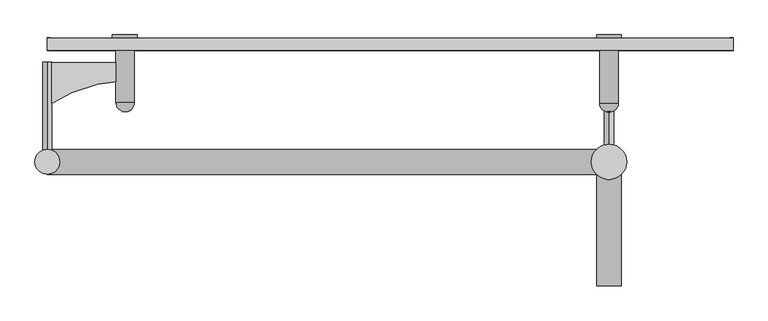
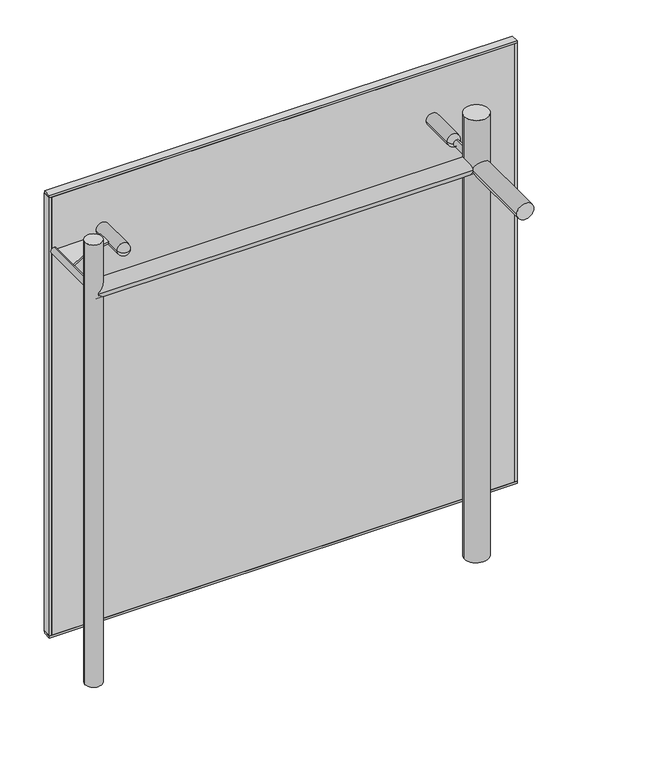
"""IFC4 building model written with IfcOpenShell, lengths in millimetres: plate geometry, FLATNING_TRYOUT_CORNER : FLATNING_TRYOUT_CORNER."""

from ifc_helpers import new_model, si_unit, point, frame, frame_2d, origin, origin_with_axes, place, context, project, spatial, polyline, circle_curve, ellipse_curve, trimmed, segment, composite_curve, outline, extrude, source, transform, mapped, element, save
from ifc_brep_helpers import plane_surface, cylinder_surface, revolved_surface, advanced_brep


def plate_a1d4ab2c(model_context):
    return source(origin(), model_context, "Body", "SolidModel", [
        advanced_brep(
        [(352.5, 0.0, 980.0), (347.5, 0.0, 980.0), (357.5, 0.0, 980.0), (367.5, -20.0, 980.0), (337.5, -20.0, 980.0), (337.5, -105.0, 980.0), (367.5, -105.0, 980.0), (357.5, -20.0, 980.0), (347.5, -20.0, 980.0), (352.5, -120.0, 980.0)],
        [
            (0, 1),
            (1, 2, circle_curve(frame((352.5, 0.0, 980.0), z_axis=(0.0, 1.0, 0.0), x_axis=(-1.0, 0.0, 0.0)), 5.0)),
            (2, 0),
            (2, 1, circle_curve(frame((352.5, 0.0, 980.0), z_axis=(0.0, 1.0, 0.0), x_axis=(-1.0, 0.0, 0.0)), 5.0)),
            (3, 4, circle_curve(frame((352.5, -20.0, 980.0), z_axis=(0.0, -1.0, 0.0), x_axis=(-1.0, 0.0, 0.0)), 15.0)),
            (4, 5),
            (5, 6, circle_curve(frame((352.5, -105.0, 980.0), z_axis=(0.0, 1.0, 0.0), x_axis=(-1.0, 0.0, 0.0)), 15.0)),
            (6, 3),
            (4, 3, circle_curve(frame((352.5, -20.0, 980.0), z_axis=(0.0, -1.0, 0.0), x_axis=(-1.0, 0.0, 0.0)), 15.0)),
            (6, 5, circle_curve(frame((352.5, -105.0, 980.0), z_axis=(0.0, 1.0, 0.0), x_axis=(-1.0, 0.0, 0.0)), 15.0)),
            (7, 8, circle_curve(frame((352.5, -20.0, 980.0), z_axis=(0.0, -1.0, 0.0), x_axis=(-1.0, 0.0, 0.0)), 5.0)),
            (8, 4),
            (3, 7),
            (8, 7, circle_curve(frame((352.5, -20.0, 980.0), z_axis=(0.0, -1.0, 0.0), x_axis=(-1.0, 0.0, 0.0)), 5.0)),
            (1, 8),
            (7, 2),
            (5, 9, circle_curve(frame((352.5, -105.0, 980.0), z_axis=(0.0, 0.0, 1.0), x_axis=(-1.0, 0.0, 0.0)), 15.0)),
            (9, 6, circle_curve(frame((352.5, -105.0, 980.0), z_axis=(0.0, 0.0, 1.0), x_axis=(1.0, 0.0, 0.0)), 15.0)),
        ],
        [
            plane_surface(frame((352.5, 0.0, 980.0), z_axis=(0.0, 1.0, 0.0), x_axis=(-1.0, 0.0, 0.0))),
            cylinder_surface(frame((352.5, 255.0, 980.0), z_axis=(0.0, 1.0, 0.0), x_axis=(-1.0, 0.0, 0.0)), 15.0),
            plane_surface(frame((352.5, -20.0, 980.0), z_axis=(0.0, 1.0, 0.0), x_axis=(-1.0, 0.0, 0.0))),
            cylinder_surface(frame((352.5, 255.0, 980.0), z_axis=(0.0, 1.0, 0.0), x_axis=(-1.0, 0.0, 0.0)), 5.0),
            revolved_surface(trimmed(ellipse_curve(frame((352.5, -105.0, 980.0), z_axis=(0.0, 0.0, -1.0), x_axis=(-1.0, 0.0, 0.0)), 15.0, 15.0), [point((352.5, -120.0, 980.0))], [point((337.5, -105.0, 980.0))], True, "CARTESIAN"), (352.5, 255.0, 980.0), (0.0, 1.0, 0.0)),
        ],
        [
            (0, [[1, 2, 3]]),
            (0, [[-3, 4, -1]]),
            (1, [[5, 6, 7, 8]]),
            (1, [[9, -8, 10, -6]]),
            (2, [[11, 12, -5, 13]]),
            (2, [[14, -13, -9, -12]]),
            (3, [[-2, 15, -11, 16]]),
            (3, [[-4, -16, -14, -15]]),
            (4, [[-7, 17, 18]]),
            (4, [[-10, -18, -17]]),
        ],
    ),
        extrude(outline(composite_curve([segment(polyline([(-427.363113, -38.8273073), (-427.208613, -68.8269095)]), True, "CONTINUOUS"), segment(trimmed(circle_curve(frame_2d((-421.8263088, -297.2578864)), 228.4943772), [point((-427.208613, -68.8269095))], [point((-552.0009553, -109.470129))], True, "CARTESIAN"), True, "CONTINUOUS"), segment(polyline([(-552.0009553, -109.470129), (-552.3614553, -39.4710573), (-427.363113, -38.8273073)]), True, "CONTINUOUS")], self_intersect=False)), frame((0.0, 0.0, 977.5), z_axis=(0.0, 0.0, 1.0), x_axis=(1.0, 0.0, 0.0)), (0.0, 0.0, 1.0), 5.0),
        advanced_brep(
        [(-427.569113, 1.1721622, 980.0), (-432.5690467, 1.1464122, 980.0), (-422.5691793, 1.1979122, 980.0), (-412.4663119, -18.7503226, 980.0), (-442.4659141, -18.9048226, 980.0), (-442.0281641, -103.9036953, 980.0), (-412.0285619, -103.7491953, 980.0), (-422.4661793, -18.8018226, 980.0), (-432.4660467, -18.8533226, 980.0), (-426.951113, -118.8262464, 980.0)],
        [
            (0, 1),
            (1, 2, circle_curve(frame((-427.569113, 1.1721622, 980.0), z_axis=(-0.0051500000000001, 0.9999867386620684, 0.0), x_axis=(-0.9999867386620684, -0.0051500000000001, 0.0)), 5.0)),
            (2, 0),
            (2, 1, circle_curve(frame((-427.569113, 1.1721622, 980.0), z_axis=(-0.0051500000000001, 0.9999867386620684, 0.0), x_axis=(-0.9999867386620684, -0.0051500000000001, 0.0)), 5.0)),
            (3, 4, circle_curve(frame((-427.466113, -18.8275726, 980.0), z_axis=(0.0051500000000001, -0.9999867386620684, 0.0), x_axis=(-0.9999867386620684, -0.0051500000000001, 0.0)), 15.0)),
            (4, 5),
            (5, 6, circle_curve(frame((-427.028363, -103.8264453, 980.0), z_axis=(-0.0051500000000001, 0.9999867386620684, 0.0), x_axis=(-0.9999867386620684, -0.0051500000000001, 0.0)), 15.0)),
            (6, 3),
            (4, 3, circle_curve(frame((-427.466113, -18.8275726, 980.0), z_axis=(0.0051500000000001, -0.9999867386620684, 0.0), x_axis=(-0.9999867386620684, -0.0051500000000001, 0.0)), 15.0)),
            (6, 5, circle_curve(frame((-427.028363, -103.8264453, 980.0), z_axis=(-0.0051500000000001, 0.9999867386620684, 0.0), x_axis=(-0.9999867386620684, -0.0051500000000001, 0.0)), 15.0)),
            (7, 8, circle_curve(frame((-427.466113, -18.8275726, 980.0), z_axis=(0.0051500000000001, -0.9999867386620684, 0.0), x_axis=(-0.9999867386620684, -0.0051500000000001, 0.0)), 5.0)),
            (8, 4),
            (3, 7),
            (8, 7, circle_curve(frame((-427.466113, -18.8275726, 980.0), z_axis=(0.0051500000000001, -0.9999867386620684, 0.0), x_axis=(-0.9999867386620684, -0.0051500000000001, 0.0)), 5.0)),
            (1, 8),
            (7, 2),
            (5, 9, circle_curve(frame((-427.028363, -103.8264453, 980.0), z_axis=(0.0, 0.0, 1.0), x_axis=(-0.9999867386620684, -0.0051500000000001, 0.0)), 15.0)),
            (9, 6, circle_curve(frame((-427.028363, -103.8264453, 980.0), z_axis=(0.0, 0.0, 1.0), x_axis=(0.9999867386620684, 0.0051500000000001, 0.0)), 15.0)),
        ],
        [
            plane_surface(frame((-427.569113, 1.1721622, 980.0), z_axis=(-0.0051500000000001, 0.9999867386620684, 0.0), x_axis=(-0.9999867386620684, -0.0051500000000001, 0.0))),
            cylinder_surface(frame((-428.882363, 256.1687806, 980.0), z_axis=(-0.0051500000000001, 0.9999867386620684, 0.0), x_axis=(-0.9999867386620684, -0.0051500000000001, 0.0)), 15.0),
            plane_surface(frame((-427.466113, -18.8275726, 980.0), z_axis=(-0.0051500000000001, 0.9999867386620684, 0.0), x_axis=(-0.9999867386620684, -0.0051500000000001, 0.0))),
            cylinder_surface(frame((-428.882363, 256.1687806, 980.0), z_axis=(-0.0051500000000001, 0.9999867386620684, 0.0), x_axis=(-0.9999867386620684, -0.0051500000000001, 0.0)), 5.0),
            revolved_surface(trimmed(ellipse_curve(frame((-427.028363, -103.8264453, 980.0), z_axis=(0.0, 0.0, -1.0), x_axis=(-0.9999867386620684, -0.0051500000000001, 0.0)), 15.0, 15.0), [point((-426.951113, -118.8262464, 980.0))], [point((-442.0281641, -103.9036953, 980.0))], True, "CARTESIAN"), (-428.882363, 256.1687806, 980.0), (-0.0051500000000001, 0.9999867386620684, 0.0)),
        ],
        [
            (0, [[1, 2, 3]]),
            (0, [[-3, 4, -1]]),
            (1, [[5, 6, 7, 8]]),
            (1, [[9, -8, 10, -6]]),
            (2, [[11, 12, -5, 13]]),
            (2, [[14, -13, -9, -12]]),
            (3, [[-2, 15, -11, 16]]),
            (3, [[-4, -16, -14, -15]]),
            (4, [[-7, 17, 18]]),
            (4, [[-10, -18, -17]]),
        ],
    ),
        extrude(outline(composite_curve([segment(trimmed(circle_curve(frame_2d((980.0, 352.5)), 20.0), [point((980.0, 372.5))], [point((980.0, 332.5))], False, "CARTESIAN"), True, "CONTINUOUS"), segment(trimmed(circle_curve(frame_2d((980.0, 352.5)), 20.0), [point((980.0, 332.5))], [point((980.0, 372.5))], False, "CARTESIAN"), True, "CONTINUOUS")], self_intersect=False)), frame((0.0, 0.0, 0.0), z_axis=(0.0, 1.0, 0.0), x_axis=(0.0, 0.0, 1.0)), (0.0, 0.0, 1.0), 5.0),
        extrude(outline(composite_curve([segment(trimmed(circle_curve(frame_2d((980.0, -427.5)), 20.0), [point((980.0, -407.5))], [point((980.0, -447.5))], False, "CARTESIAN"), True, "CONTINUOUS"), segment(trimmed(circle_curve(frame_2d((980.0, -427.5)), 20.0), [point((980.0, -447.5))], [point((980.0, -407.5))], False, "CARTESIAN"), True, "CONTINUOUS")], self_intersect=False)), frame((0.0, 0.0, 0.0), z_axis=(0.0, 1.0, 0.0), x_axis=(0.0, 0.0, 1.0)), (0.0, 0.0, 1.0), 5.0),
        advanced_brep(
        [(-552.5, -220.0, 980.0), (-552.5, -180.0, 980.0), (332.5, -220.0, 980.0), (372.5, -180.0, 980.0), (332.5, -400.0, 980.0), (372.5, -400.0, 980.0)],
        [
            (0, 1, circle_curve(frame((-552.5, -200.0, 980.0), z_axis=(-1.0, 0.0, 0.0), x_axis=(0.0, 1.0, 0.0)), 20.0)),
            (1, 0, circle_curve(frame((-552.5, -200.0, 980.0), z_axis=(-1.0, 0.0, 0.0), x_axis=(0.0, 1.0, 0.0)), 20.0)),
            (0, 2),
            (2, 3, ellipse_curve(frame((352.5, -200.0, 980.0), z_axis=(-0.7071067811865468, 0.7071067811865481, 0.0), x_axis=(-0.7071067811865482, -0.7071067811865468, 0.0)), 28.2842712, 20.0)),
            (3, 1),
            (3, 2, ellipse_curve(frame((352.5, -200.0, 980.0), z_axis=(-0.7071067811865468, 0.7071067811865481, 0.0), x_axis=(-0.7071067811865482, -0.7071067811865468, 0.0)), 28.2842712, 20.0)),
            (4, 5, circle_curve(frame((352.5, -400.0, 980.0), z_axis=(0.0, -1.0, 0.0), x_axis=(1.0, 0.0, 0.0)), 20.0)),
            (5, 4, circle_curve(frame((352.5, -400.0, 980.0), z_axis=(0.0, -1.0, 0.0), x_axis=(1.0, 0.0, 0.0)), 20.0)),
            (2, 4),
            (5, 3),
        ],
        [
            plane_surface(frame((-552.5, -200.0, 0.0), z_axis=(-1.0, 0.0, 0.0), x_axis=(0.0, 0.0, 1.0))),
            cylinder_surface(frame((-552.5, -200.0, 980.0), z_axis=(-1.0, 0.0, 0.0), x_axis=(0.0, 1.0, 0.0)), 20.0),
            plane_surface(frame((352.5, -400.0, 0.0), z_axis=(0.0, -1.0, 0.0), x_axis=(0.0, 0.0, 1.0))),
            cylinder_surface(frame((352.5, -200.0, 980.0), z_axis=(0.0, 1.0, 0.0), x_axis=(1.0, 0.0, 0.0)), 20.0),
        ],
        [
            (0, [[1, 2]]),
            (1, [[-1, 3, 4, 5]]),
            (1, [[-2, -5, 6, -3]]),
            (2, [[7, 8]]),
            (3, [[-4, 9, -8, 10]]),
            (3, [[-6, -10, -7, -9]]),
        ],
    ),
        extrude(outline(polyline([(552.5, -20.0), (-552.5, -20.0), (-552.5, 0.0), (552.5, 0.0), (552.5, -20.0)])), origin_with_axes(), (0.0, 0.0, 1.0), 5.0),
        extrude(outline(polyline([(552.5, -20.0), (-552.5, -20.0), (-552.5, 0.0), (552.5, 0.0), (552.5, -20.0)])), frame((0.0, 0.0, 1100.0), z_axis=(0.0, 0.0, 1.0), x_axis=(1.0, 0.0, 0.0)), (0.0, 0.0, 1.0), 5.0),
        extrude(outline(polyline([(547.5, 0.0781286), (552.5, 0.0781286), (552.5, -20.0), (547.5, -20.0), (547.5, 0.0781286)])), frame((0.0, 0.0, 5.0), z_axis=(0.0, 0.0, 1.0), x_axis=(1.0, 0.0, 0.0)), (0.0, 0.0, 1.0), 1095.0),
        extrude(outline(polyline([(-547.5, 0.5287596), (-547.5, -20.0), (-552.5000001, -20.0), (-552.5000001, 0.5287596), (-547.5, 0.5287596)])), frame((0.0, 0.0, 5.0), z_axis=(0.0, 0.0, 1.0), x_axis=(1.0, 0.0, 0.0)), (0.0, 0.0, 1.0), 1095.0),
        extrude(outline(polyline([(547.5, -20.0), (-547.5, -20.0), (-547.5, 0.0), (547.5, 0.0), (547.5, -20.0)])), frame((0.0, 0.0, 5.0), z_axis=(0.0, 0.0, 1.0), x_axis=(1.0, 0.0, 0.0)), (0.0, 0.0, 1.0), 1095.0),
        extrude(outline(composite_curve([segment(trimmed(circle_curve(frame_2d((980.0, 352.5)), 7.5), [point((972.5, 352.5))], [point((987.5, 352.5))], False, "CARTESIAN"), True, "CONTINUOUS"), segment(trimmed(circle_curve(frame_2d((980.0, 352.5)), 7.5), [point((987.5, 352.5))], [point((972.5, 352.5))], False, "CARTESIAN"), True, "CONTINUOUS")], self_intersect=False)), frame((0.0, -199.2242369, 0.0), z_axis=(0.0, 1.0, 0.0), x_axis=(0.0, 0.0, 1.0)), (0.0, 0.0, 1.0), 160.0),
        extrude(outline(composite_curve([segment(trimmed(circle_curve(frame_2d((980.0, -552.5)), 7.5), [point((972.5, -552.5))], [point((987.5, -552.5))], False, "CARTESIAN"), True, "CONTINUOUS"), segment(trimmed(circle_curve(frame_2d((980.0, -552.5)), 7.5), [point((987.5, -552.5))], [point((972.5, -552.5))], False, "CARTESIAN"), True, "CONTINUOUS")], self_intersect=False)), frame((0.0, -198.6528093, 0.0), z_axis=(0.0, 1.0, 0.0), x_axis=(0.0, 0.0, 1.0)), (0.0, 0.0, 1.0), 160.0),
        extrude(outline(composite_curve([segment(trimmed(circle_curve(frame_2d((352.5, -200.0)), 28.3), [point((324.2, -200.0))], [point((380.8, -200.0))], False, "CARTESIAN"), True, "CONTINUOUS"), segment(trimmed(circle_curve(frame_2d((352.5, -200.0)), 28.3), [point((380.8, -200.0))], [point((324.2, -200.0))], False, "CARTESIAN"), True, "CONTINUOUS")], self_intersect=False)), origin_with_axes(), (0.0, 0.0, 1.0), 1105.0),
        extrude(outline(composite_curve([segment(trimmed(circle_curve(frame_2d((-552.5, -200.0)), 20.0), [point((-572.5, -200.0))], [point((-532.5, -200.0))], False, "CARTESIAN"), True, "CONTINUOUS"), segment(trimmed(circle_curve(frame_2d((-552.5, -200.0)), 20.0), [point((-532.5, -200.0))], [point((-572.5, -200.0))], False, "CARTESIAN"), True, "CONTINUOUS")], self_intersect=False)), origin_with_axes(), (0.0, 0.0, 1.0), 1105.0),
    ])


if __name__ == "__main__":
    model = new_model("IFC4")
    model_context = context("Model", 3, world=origin())
    ifc_project = project(units=[si_unit("LENGTHUNIT", "METRE", prefix="MILLI")], contexts=[model_context])
    site = spatial("IfcSite", under=ifc_project)
    building = spatial("IfcBuilding", under=site)
    placement = place(None, origin())
    plate_shape = plate_a1d4ab2c(model_context)
    element("IfcPlate", 1, ObjectType="FLATNING_TRYOUT_CORNER : FLATNING_TRYOUT_CORNER", at=placement, inside=building, context=model_context, shape_type="MappedRepresentation", body=[
        mapped(plate_shape, transform((0.0, 0.0, 0.0), x_axis=(1.0, 0.0, 0.0), y_axis=(0.0, 1.0, 0.0), z_axis=(0.0, 0.0, 1.0))),
    ])
    save(model, "model.ifc")
